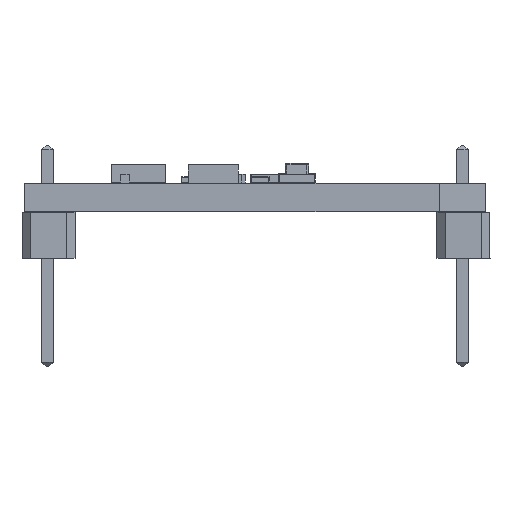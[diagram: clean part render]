
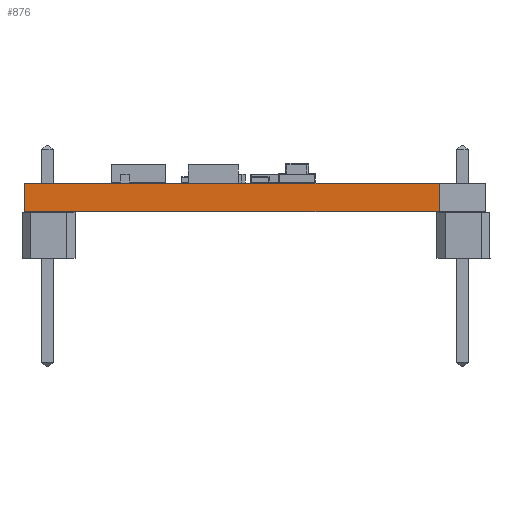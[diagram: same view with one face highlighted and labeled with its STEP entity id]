
A CAD part, front view. The second image highlights one B-rep face of the part: STEP entity #876.
In plain terms, the highlighted planar face has unit normal (0, -1, 0).
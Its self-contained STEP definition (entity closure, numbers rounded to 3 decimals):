
#851 = VERTEX_POINT('',#852);
#852 = CARTESIAN_POINT('',(21.59,-3.81,0.));
#858 = EDGE_CURVE('',#859,#851,#861,.T.);
#859 = VERTEX_POINT('',#860);
#860 = CARTESIAN_POINT('',(21.59,-3.81,-1.59));
#861 = LINE('',#862,#863);
#862 = CARTESIAN_POINT('',(21.59,-3.81,-1.59));
#863 = VECTOR('',#864,1.);
#864 = DIRECTION('',(0.,0.,1.));
#876 = ADVANCED_FACE('',(#877),#902,.T.);
#877 = FACE_BOUND('',#878,.T.);
#878 = EDGE_LOOP('',(#879,#880,#888,#896));
#879 = ORIENTED_EDGE('',*,*,#858,.T.);
#880 = ORIENTED_EDGE('',*,*,#881,.T.);
#881 = EDGE_CURVE('',#851,#882,#884,.T.);
#882 = VERTEX_POINT('',#883);
#883 = CARTESIAN_POINT('',(-1.27,-3.81,0.));
#884 = LINE('',#885,#886);
#885 = CARTESIAN_POINT('',(21.59,-3.81,0.));
#886 = VECTOR('',#887,1.);
#887 = DIRECTION('',(-1.,0.,0.));
#888 = ORIENTED_EDGE('',*,*,#889,.F.);
#889 = EDGE_CURVE('',#890,#882,#892,.T.);
#890 = VERTEX_POINT('',#891);
#891 = CARTESIAN_POINT('',(-1.27,-3.81,-1.59));
#892 = LINE('',#893,#894);
#893 = CARTESIAN_POINT('',(-1.27,-3.81,-1.59));
#894 = VECTOR('',#895,1.);
#895 = DIRECTION('',(0.,0.,1.));
#896 = ORIENTED_EDGE('',*,*,#897,.F.);
#897 = EDGE_CURVE('',#859,#890,#898,.T.);
#898 = LINE('',#899,#900);
#899 = CARTESIAN_POINT('',(21.59,-3.81,-1.59));
#900 = VECTOR('',#901,1.);
#901 = DIRECTION('',(-1.,0.,0.));
#902 = PLANE('',#903);
#903 = AXIS2_PLACEMENT_3D('',#904,#905,#906);
#904 = CARTESIAN_POINT('',(21.59,-3.81,-1.59));
#905 = DIRECTION('',(0.,-1.,0.));
#906 = DIRECTION('',(-1.,0.,0.));
